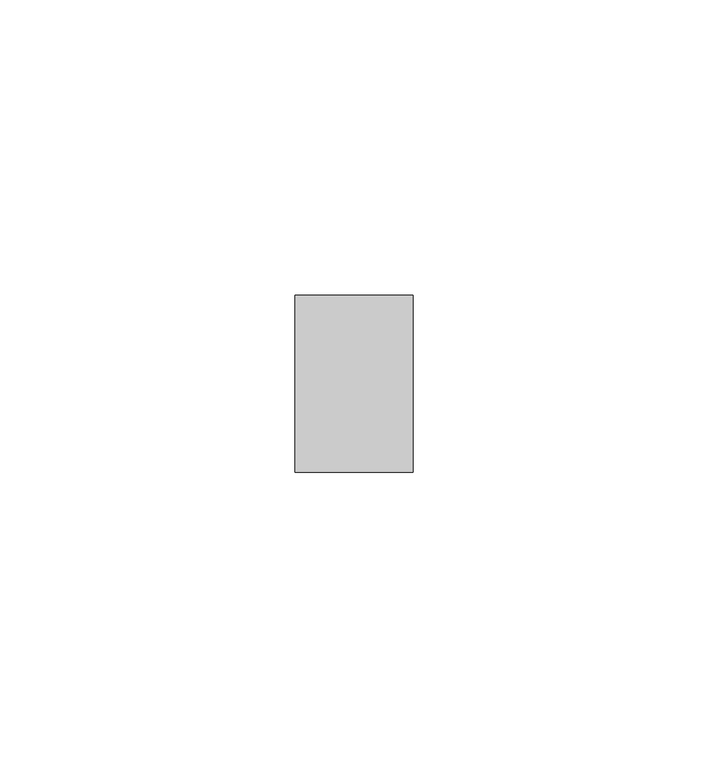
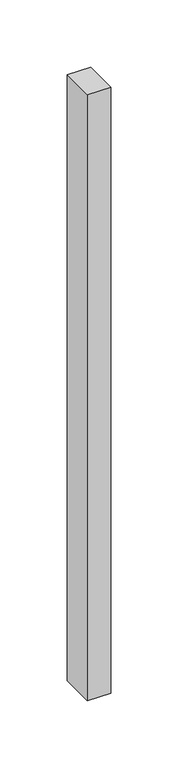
"""IFC4 building model written with IfcOpenShell, lengths in millimetres: member geometry, Прямоугольный импост : Квадрат 10 мм - Зазор между навесными плитами."""

from ifc_helpers import new_model, si_unit, frame, origin, place, context, project, spatial, polyline, outline, extrude, source, transform, mapped, element, save


def member_21c88cf8(model_context):
    return source(origin(), model_context, "Body", "SweptSolid", [
        extrude(outline(polyline([(0.0, 15.0), (0.0, -15.0), (-20.0, -15.0), (-20.0, 15.0), (0.0, 15.0)])), frame((0.0, 0.0, -550.0), z_axis=(0.0, 0.0, 1.0), x_axis=(1.0, 0.0, 0.0)), (0.0, 0.0, 1.0), 550.0),
    ])


if __name__ == "__main__":
    model = new_model("IFC4")
    model_context = context("Model", 3, world=origin())
    ifc_project = project(units=[si_unit("LENGTHUNIT", "METRE", prefix="MILLI")], contexts=[model_context])
    site = spatial("IfcSite", under=ifc_project)
    building = spatial("IfcBuilding", under=site)
    placement = place(None, origin())
    member_shape = member_21c88cf8(model_context)
    element("IfcMember", 1, ObjectType="Прямоугольный импост : Квадрат 10 мм - Зазор между навесными плитами", at=placement, inside=building, context=model_context, shape_type="MappedRepresentation", body=[
        mapped(member_shape, transform((0.0, 0.0, 0.0), x_axis=(1.0, 0.0, 0.0), y_axis=(0.0, 1.0, 0.0), z_axis=(0.0, 0.0, 1.0))),
    ])
    save(model, "model.ifc")
